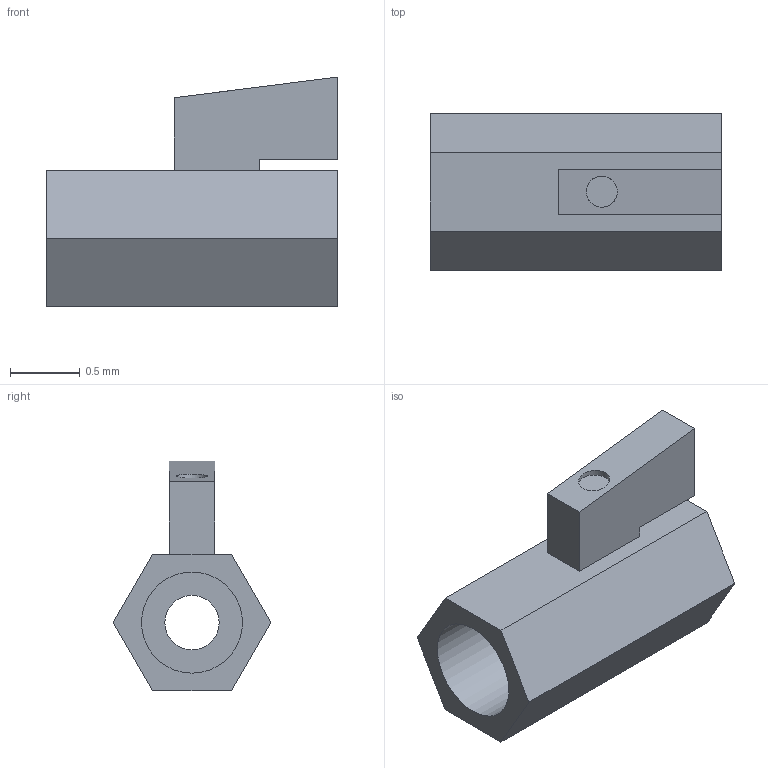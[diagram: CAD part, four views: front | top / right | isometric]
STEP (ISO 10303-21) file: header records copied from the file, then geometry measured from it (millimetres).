
FILE_DESCRIPTION(('Open CASCADE Model'),'2;1');
FILE_NAME('Open CASCADE Shape Model','2021-09-23T09:09:37',('Author'),( 'Open CASCADE'),'Open CASCADE STEP processor 7.3','Open CASCADE 7.3' ,'Unknown');
FILE_SCHEMA(('AUTOMOTIVE_DESIGN { 1 0 10303 214 1 1 1 1 }'));
Length unit declared in the file: millimetre
Products named in the file (1): Open CASCADE STEP translator 7.3 1
Bounding box: 2.09 x 1.13 x 1.65 mm (x, y, z)
Volume: 1.3 mm3; surface area: 14.6 mm2
Topology: 1 solids, 1 shells, 22 faces, 49 edges, 33 vertices
Faces by surface type: plane 18, cylinder 4
Full cylindrical faces by diameter (mm): 0.223 x1, 0.39 x1, 0.726 x2
Entity records: 1316 total; most frequent: CARTESIAN_POINT 285, DIRECTION 191, LINE 123, VECTOR 123, ORIENTED_EDGE 98, PCURVE 98, DEFINITIONAL_REPRESENTATION 98, EDGE_CURVE 49
